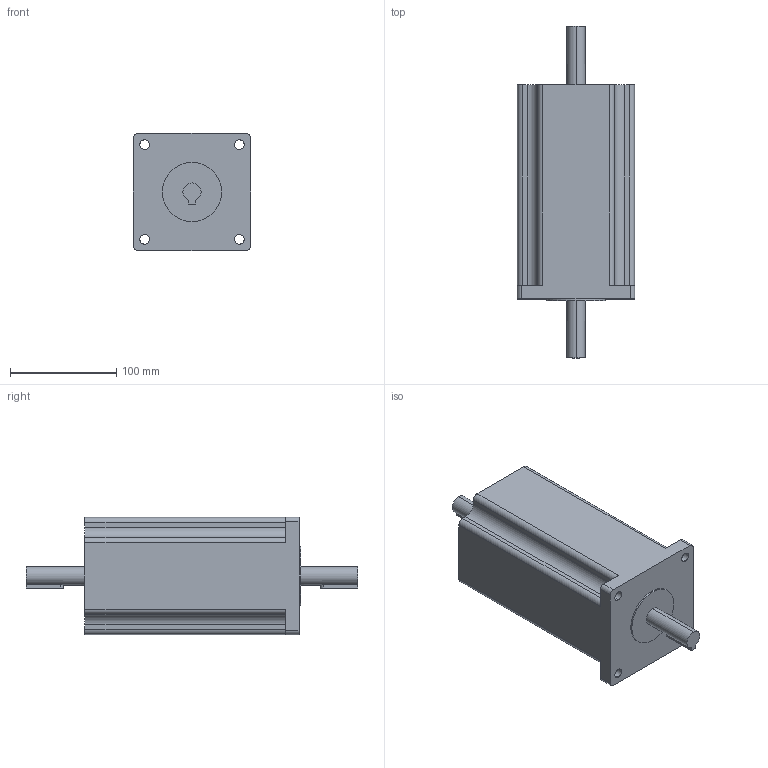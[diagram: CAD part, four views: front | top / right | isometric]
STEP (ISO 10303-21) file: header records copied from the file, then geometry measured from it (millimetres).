
FILE_DESCRIPTION (( 'STEP AP214' ), '1' );
FILE_NAME ('110A28.STEP', '2020-06-22T02:20:00', ( 'wimxt.com' ), ( 'wimxt.com' ), 'SwSTEP 2.0', 'SolidWorks 2014', '' );
FILE_SCHEMA (( 'AUTOMOTIVE_DESIGN' ));
Length unit declared in the file: millimetre
Products named in the file (1): 110A28
Bounding box: 110 x 311.74 x 110 mm (x, y, z)
Volume: 2194990.7 mm3; surface area: 113672.5 mm2
Topology: 1 solids, 1 shells, 59 faces, 162 edges, 108 vertices
Faces by surface type: cylinder 32, plane 27
Entity records: 2004 total; most frequent: CARTESIAN_POINT 394, DIRECTION 340, ORIENTED_EDGE 324, EDGE_CURVE 162, AXIS2_PLACEMENT_3D 122, VERTEX_POINT 108, VECTOR 96, LINE 96
